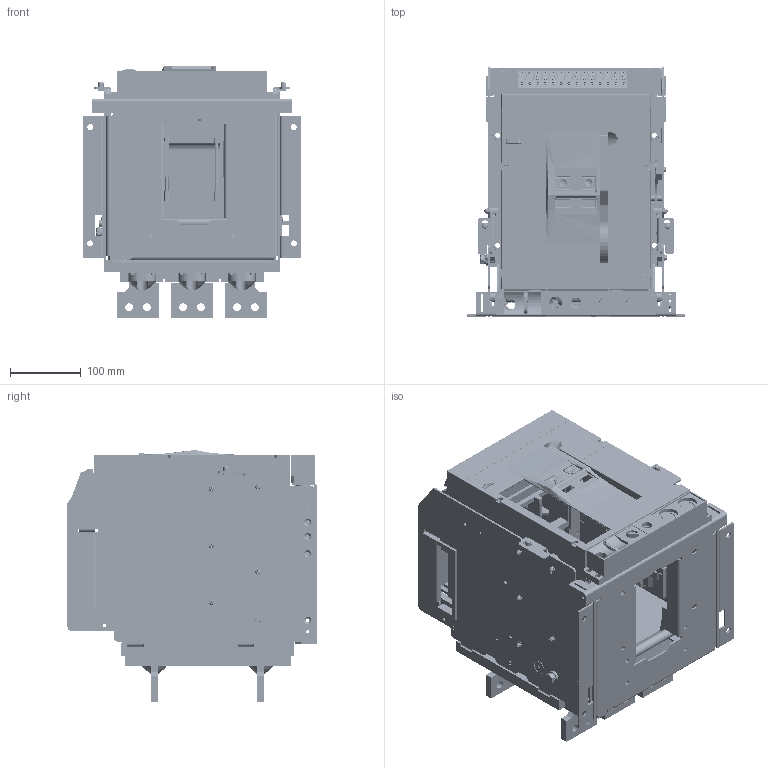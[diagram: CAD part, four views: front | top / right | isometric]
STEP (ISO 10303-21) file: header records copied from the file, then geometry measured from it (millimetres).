
FILE_DESCRIPTION((''),'2;1');
FILE_NAME('NA8G-1600-1000-DO-3P-H_ASM','2019-05-21T16:54:19',('lcc'),(''),'CREO PARAMETRIC BY PTC INC, 2018020','CREO PARAMETRIC BY PTC INC, 2018020','');
FILE_SCHEMA(('CONFIG_CONTROL_DESIGN','SHAPE_APPEARANCE_LAYERS_GROUPS'));
Products named in the file (56): 8-024-504; 8-300-164; 8-141-125; 8-860-349; 8-441-081; 8-200-099; 8-236-064; 5-203-058_ASM; 8-145-063; 8-211-092; 5-024-172_ASM; 8-050-244; 8-960-058; 8-960-056; 8-960-057; 8-960-060; 8-960-059; 8-127-020; 8-125-057; 8-123-120; 8-261-001; 8-125-001; 8-210-176; 5-124-010_ASM; 8-233-301; GBT97_1-4; GBT93-4; GBT818-M4X10; GBT845-ST4_2X9_5C; GBT6170-M8; 5-050-095_ASM; 8-050-243; 8-261-002; 8-125-002; 5-124-011_ASM; GBT97_1-8; GBT93-8; GBT5783-M8X16; 5-050-096_ASM; 8-300-166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
Assembly tree (108 placements, depth 4):
  NA8G-1600-1000-DO-3P-H_ASM
    5-024-172_ASM
      8-024-504
      8-300-164
      8-141-125
      8-860-349
      8-441-081
      5-203-058_ASM
        8-200-099
        8-236-064  x2
      8-145-063  x2
      8-211-092
    5-050-095_ASM
      8-050-244
      8-960-058
      8-960-056
      8-960-057
      8-960-060
      8-960-059
      8-127-020
      8-125-057
      8-123-120
      5-124-010_ASM
        8-261-001
        8-125-001
        8-210-176
      8-233-301
      GBT97_1-4  x5
      GBT93-4  x5
      GBT818-M4X10  x5
      GBT845-ST4_2X9_5C
      GBT6170-M8  x2
    5-050-096_ASM
      8-050-243
      8-125-057
      8-123-120
      5-124-011_ASM
        8-261-002
        8-125-002
        8-210-176
      GBT6170-M8  x2
      GBT97_1-4  x5
      GBT93-4  x5
      GBT818-M4X10  x5
      GBT97_1-8  x2
      GBT93-8
      GBT5783-M8X16
    8-300-166
    8-015-021
    8ZTD-043-780
    8ZTD-043-781
    8-300-162-2
    8-253-348
    8-253-349
    8-253-309
    5-235-147
    1600-DIJIA-3P
    1600-DUANZI-CTS_ASM
      8ZTD-064-138
      8ZTD-024-689  x14
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Bounding box: 308 x 351 x 355 mm (x, y, z)
Volume: 6735180.3 mm3; surface area: 1909503.9 mm2
Topology: 101 solids, 147 shells, 7106 faces, 19428 edges, 12772 vertices
Faces by surface type: plane 5210, cylinder 1645, cone 102, bspline 74, torus 42, sphere 32, extrusion 1
Entity records: 176098 total; most frequent: CARTESIAN_POINT 27158, ORIENTED_EDGE 24338, DIRECTION 23933, EDGE_CURVE 12180, PRESENTATION_STYLE_ASSIGNMENT 10150, STYLED_ITEM 10110, CURVE_STYLE 9985, VECTOR 9373
